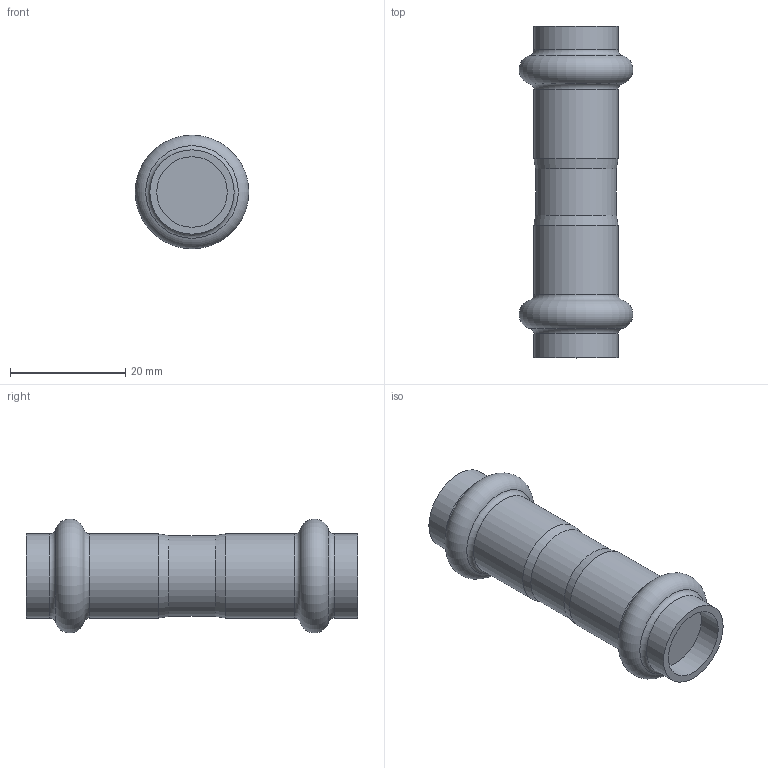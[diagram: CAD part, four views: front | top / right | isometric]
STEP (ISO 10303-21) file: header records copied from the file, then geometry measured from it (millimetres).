
FILE_DESCRIPTION(('STEP AP203'), '1');
FILE_NAME('VTi.903.I.001212', '', ('UNSPECIFIED'), ('UNSPECIFIED'), 'C3D Converter', 'C3D Toolkit', '');
FILE_SCHEMA(('CONFIG_CONTROL_DESIGN'));
Length unit declared in the file: millimetre
Bounding box: 19.7 x 57.5 x 19.7 mm (x, y, z)
Volume: 9626 mm3; surface area: 3650.9 mm2
Topology: 1 solids, 1 shells, 19 faces, 33 edges, 18 vertices
Faces by surface type: cylinder 7, torus 6, plane 4, cone 2
Full cylindrical faces by diameter (mm): 12.2 x2, 14 x1, 14.6 x4
Entity records: 414 total; most frequent: DIRECTION 76, CARTESIAN_POINT 56, AXIS2_PLACEMENT_3D 38, EDGE_LOOP 36, ORIENTED_EDGE 36, FACE_OUTER_BOUND 30, ADVANCED_FACE 19, EDGE_CURVE 18
